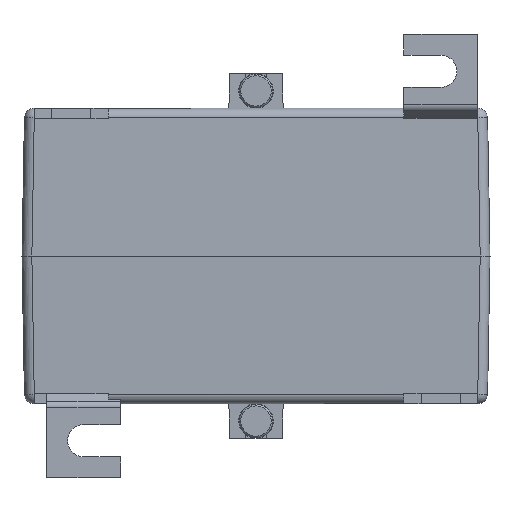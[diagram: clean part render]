
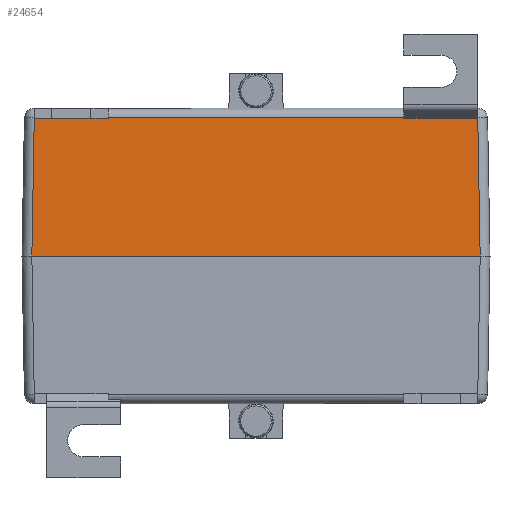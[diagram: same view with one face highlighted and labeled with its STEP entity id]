
A CAD part, front view. The second image highlights one B-rep face of the part: STEP entity #24654.
In plain terms, the highlighted planar face has unit normal (0, -1, 0.018).
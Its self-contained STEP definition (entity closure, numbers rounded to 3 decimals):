
#2573=FACE_OUTER_BOUND('',#3964,.T.);
#3964=EDGE_LOOP('',(#17887,#17888,#17889,#17890,#17891,#17892,#17893,#17894,
#17895,#17896,#17897,#17898));
#5882=LINE('',#34070,#8450);
#5898=LINE('',#34107,#8466);
#5922=LINE('',#34164,#8490);
#5939=LINE('',#34199,#8507);
#5955=LINE('',#34362,#8523);
#6206=LINE('',#36239,#8774);
#6207=LINE('',#36241,#8775);
#6208=LINE('',#36243,#8776);
#6209=LINE('',#36245,#8777);
#6210=LINE('',#36247,#8778);
#6211=LINE('',#36249,#8779);
#6212=LINE('',#36250,#8780);
#8450=VECTOR('',#28374,1000.);
#8466=VECTOR('',#28400,1000.);
#8490=VECTOR('',#28444,1000.);
#8507=VECTOR('',#28475,1000.);
#8523=VECTOR('',#28559,1000.);
#8774=VECTOR('',#28870,1000.);
#8775=VECTOR('',#28871,1000.);
#8776=VECTOR('',#28872,1000.);
#8777=VECTOR('',#28873,1000.);
#8778=VECTOR('',#28874,1000.);
#8779=VECTOR('',#28875,1000.);
#8780=VECTOR('',#28876,1000.);
#10967=VERTEX_POINT('',#34067);
#10968=VERTEX_POINT('',#34069);
#10984=VERTEX_POINT('',#34105);
#11006=VERTEX_POINT('',#34161);
#11007=VERTEX_POINT('',#34163);
#11059=VERTEX_POINT('',#34360);
#11391=VERTEX_POINT('',#36238);
#11392=VERTEX_POINT('',#36240);
#11393=VERTEX_POINT('',#36242);
#11394=VERTEX_POINT('',#36244);
#11395=VERTEX_POINT('',#36246);
#11396=VERTEX_POINT('',#36248);
#13414=EDGE_CURVE('',#10968,#10967,#5882,.T.);
#13432=EDGE_CURVE('',#10967,#10984,#5898,.T.);
#13458=EDGE_CURVE('',#11007,#11006,#5922,.T.);
#13477=EDGE_CURVE('',#10984,#11007,#5939,.T.);
#13522=EDGE_CURVE('',#11006,#11059,#5955,.T.);
#13871=EDGE_CURVE('',#11059,#11391,#6206,.T.);
#13872=EDGE_CURVE('',#11391,#11392,#6207,.T.);
#13873=EDGE_CURVE('',#11392,#11393,#6208,.T.);
#13874=EDGE_CURVE('',#11393,#11394,#6209,.T.);
#13875=EDGE_CURVE('',#11394,#11395,#6210,.T.);
#13876=EDGE_CURVE('',#11396,#11395,#6211,.T.);
#13877=EDGE_CURVE('',#11396,#10968,#6212,.T.);
#17887=ORIENTED_EDGE('',*,*,#13414,.T.);
#17888=ORIENTED_EDGE('',*,*,#13432,.T.);
#17889=ORIENTED_EDGE('',*,*,#13477,.T.);
#17890=ORIENTED_EDGE('',*,*,#13458,.T.);
#17891=ORIENTED_EDGE('',*,*,#13522,.T.);
#17892=ORIENTED_EDGE('',*,*,#13871,.T.);
#17893=ORIENTED_EDGE('',*,*,#13872,.T.);
#17894=ORIENTED_EDGE('',*,*,#13873,.T.);
#17895=ORIENTED_EDGE('',*,*,#13874,.T.);
#17896=ORIENTED_EDGE('',*,*,#13875,.T.);
#17897=ORIENTED_EDGE('',*,*,#13876,.F.);
#17898=ORIENTED_EDGE('',*,*,#13877,.T.);
#23707=PLANE('',#26224);
#24654=ADVANCED_FACE('',(#2573),#23707,.T.);
#26224=AXIS2_PLACEMENT_3D('',#36237,#28868,#28869);
#28374=DIRECTION('',(-1.,0.,0.));
#28400=DIRECTION('',(-0.009,-0.017,-1.));
#28444=DIRECTION('',(-0.009,0.017,1.));
#28475=DIRECTION('',(-1.,0.,0.));
#28559=DIRECTION('',(-1.,0.,0.));
#28868=DIRECTION('center_axis',(0.,-1.,0.017));
#28869=DIRECTION('ref_axis',(0.,-0.017,-1.));
#28870=DIRECTION('',(-0.009,-0.017,-1.));
#28871=DIRECTION('',(-1.,0.,0.));
#28872=DIRECTION('',(-0.009,0.017,1.));
#28873=DIRECTION('',(-1.,0.,0.));
#28874=DIRECTION('',(-0.017,-0.017,-1.));
#28875=DIRECTION('',(-1.,0.,0.));
#28876=DIRECTION('',(-0.017,0.017,1.));
#34067=CARTESIAN_POINT('',(44.983,-49.511,28.035));
#34069=CARTESIAN_POINT('',(45.011,-49.511,28.035));
#34070=CARTESIAN_POINT('',(-47.5,-49.511,28.035));
#34105=CARTESIAN_POINT('',(44.982,-49.511,27.988));
#34107=CARTESIAN_POINT('',(44.731,-50.014,-0.805));
#34161=CARTESIAN_POINT('',(30.017,-49.511,28.035));
#34163=CARTESIAN_POINT('',(30.018,-49.511,27.988));
#34164=CARTESIAN_POINT('',(30.256,-49.988,0.678));
#34199=CARTESIAN_POINT('',(-47.5,-49.511,27.988));
#34360=CARTESIAN_POINT('',(-30.017,-49.511,28.035));
#34362=CARTESIAN_POINT('',(-47.5,-49.511,28.035));
#36237=CARTESIAN_POINT('Origin',(-47.5,-50.,0.));
#36238=CARTESIAN_POINT('',(-30.018,-49.511,27.988));
#36239=CARTESIAN_POINT('',(-30.263,-50.003,-0.15));
#36240=CARTESIAN_POINT('',(-44.982,-49.511,27.988));
#36241=CARTESIAN_POINT('',(-47.5,-49.511,27.988));
#36242=CARTESIAN_POINT('',(-44.983,-49.511,28.035));
#36243=CARTESIAN_POINT('',(-44.738,-50.,0.024));
#36244=CARTESIAN_POINT('',(-45.011,-49.511,28.035));
#36245=CARTESIAN_POINT('',(-47.5,-49.511,28.035));
#36246=CARTESIAN_POINT('',(-45.5,-50.,0.));
#36247=CARTESIAN_POINT('',(-45.501,-50.001,-0.035));
#36248=CARTESIAN_POINT('',(45.5,-50.,0.));
#36249=CARTESIAN_POINT('',(47.5,-50.,0.));
#36250=CARTESIAN_POINT('',(45.472,-49.972,1.622));
